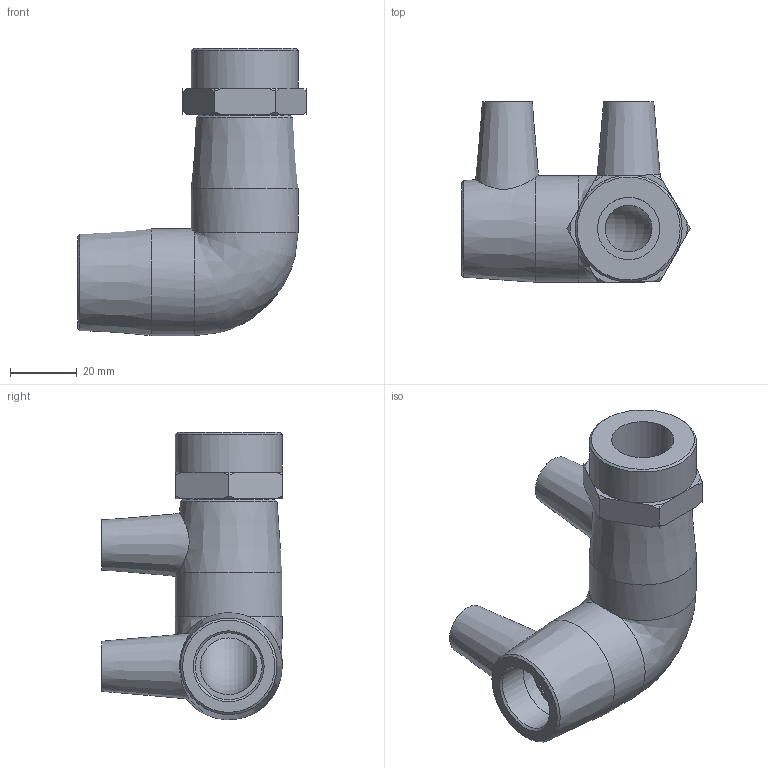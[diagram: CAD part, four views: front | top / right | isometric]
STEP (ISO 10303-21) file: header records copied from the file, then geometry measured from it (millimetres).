
FILE_DESCRIPTION(/* description */ ('PLASSON 90° ELBOW FEMALE TRANSITION 20-1/2'''''),/* implementation_level */ '2;1');
FILE_NAME(/* name */ 'C:\Dropbox\KIMPROJECTS-Inventor\99-16-3568-Processing\ElectroFusion Fittings\02.02.20\493504\493504020005.ipt.stp',/* time_stamp */ '2020-02-02T12:34:11+02:00',/* author */ ('KIM'),/* organization */ (''),/* preprocessor_version */ 'ST-DEVELOPER v15.6',/* originating_system */ 'Autodesk Inventor 2015',/* authorisation */ '');
FILE_SCHEMA (('AUTOMOTIVE_DESIGN { 1 0 10303 214 3 1 1 }'));
Length unit declared in the file: millimetre
Products named in the file (1): 493504020005
Bounding box: 68.47 x 54.04 x 85.96 mm (x, y, z)
Volume: 71060.5 mm3; surface area: 23705.2 mm2
Topology: 2 solids, 2 shells, 78 faces, 184 edges, 117 vertices
Faces by surface type: plane 27, cylinder 25, cone 24, bspline 1, torus 1
Full cylindrical faces by diameter (mm): 4 x2, 10 x2, 14 x1, 18.631 x1, 20 x4, 32 x3
Entity records: 2209 total; most frequent: CARTESIAN_POINT 494, DIRECTION 344, ORIENTED_EDGE 296, EDGE_CURVE 148, AXIS2_PLACEMENT_3D 148, EDGE_LOOP 115, VERTEX_POINT 107, STYLED_ITEM 79
